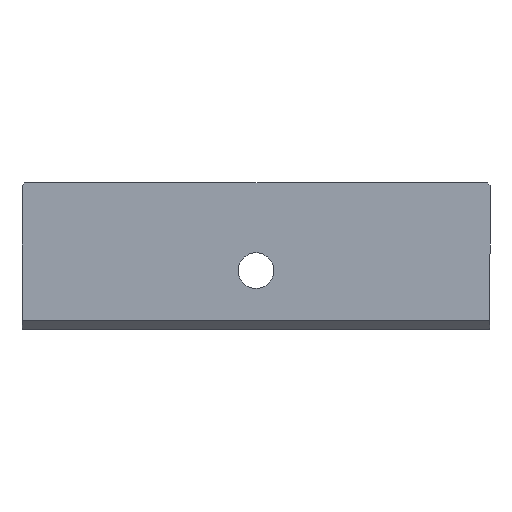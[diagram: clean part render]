
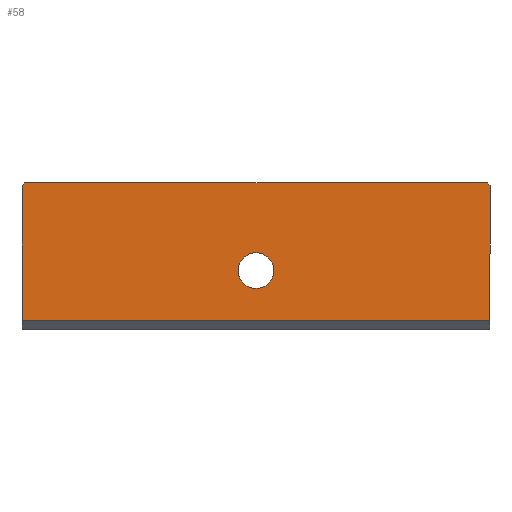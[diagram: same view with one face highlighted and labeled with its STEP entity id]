
A CAD part, top view. The second image highlights one B-rep face of the part: STEP entity #58.
In plain terms, the highlighted planar face has unit normal (0, 0, 1).
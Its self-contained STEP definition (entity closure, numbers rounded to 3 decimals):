
#8 = CARTESIAN_POINT ( 'NONE',  ( 0., -50., 0. ) ) ;
#19 = CARTESIAN_POINT ( 'NONE',  ( -160., -47., 0. ) ) ;
#53 = ORIENTED_EDGE ( 'NONE', *, *, #825, .T. ) ;
#55 = EDGE_CURVE ( 'NONE', #162, #839, #238, .T. ) ;
#58 = ADVANCED_FACE ( 'NONE', ( #269, #931 ), #510, .T. ) ;
#59 = VECTOR ( 'NONE', #854, 1000. ) ;
#67 = CARTESIAN_POINT ( 'NONE',  ( -80., -36.1, 0. ) ) ;
#89 = CIRCLE ( 'NONE', #501, 6.1 ) ;
#93 = ORIENTED_EDGE ( 'NONE', *, *, #107, .T. ) ;
#100 = CIRCLE ( 'NONE', #838, 6.1 ) ;
#107 = EDGE_CURVE ( 'NONE', #505, #629, #89, .T. ) ;
#112 = LINE ( 'NONE', #864, #378 ) ;
#116 = VERTEX_POINT ( 'NONE', #421 ) ;
#119 = VECTOR ( 'NONE', #430, 1000. ) ;
#144 = DIRECTION ( 'NONE',  ( 0., 0., -1. ) ) ;
#159 = CARTESIAN_POINT ( 'NONE',  ( 0., -1., 0. ) ) ;
#162 = VERTEX_POINT ( 'NONE', #159 ) ;
#176 = EDGE_CURVE ( 'NONE', #659, #839, #616, .T. ) ;
#202 = DIRECTION ( 'NONE',  ( 0., 1., 0. ) ) ;
#207 = DIRECTION ( 'NONE',  ( -0.707, 0.707, 0. ) ) ;
#218 = DIRECTION ( 'NONE',  ( 0., 0., 1. ) ) ;
#232 = CARTESIAN_POINT ( 'NONE',  ( -160., -1., 0. ) ) ;
#238 = LINE ( 'NONE', #8, #459 ) ;
#264 = ORIENTED_EDGE ( 'NONE', *, *, #176, .T. ) ;
#269 = FACE_BOUND ( 'NONE', #333, .T. ) ;
#281 = CARTESIAN_POINT ( 'NONE',  ( -160., -50., 0. ) ) ;
#300 = DIRECTION ( 'NONE',  ( 1., 0., 0. ) ) ;
#301 = LINE ( 'NONE', #355, #119 ) ;
#332 = CARTESIAN_POINT ( 'NONE',  ( -160., -50., 0. ) ) ;
#333 = EDGE_LOOP ( 'NONE', ( #93, #695 ) ) ;
#335 = EDGE_LOOP ( 'NONE', ( #356, #53, #473, #264, #923, #562 ) ) ;
#346 = CARTESIAN_POINT ( 'NONE',  ( -160., -47., 0. ) ) ;
#348 = DIRECTION ( 'NONE',  ( 0., 1., 0. ) ) ;
#352 = DIRECTION ( 'NONE',  ( 1., 0., 0. ) ) ;
#355 = CARTESIAN_POINT ( 'NONE',  ( -184.5, -25.5, 0. ) ) ;
#356 = ORIENTED_EDGE ( 'NONE', *, *, #613, .F. ) ;
#360 = CARTESIAN_POINT ( 'NONE',  ( -80., -30., 0. ) ) ;
#361 = CARTESIAN_POINT ( 'NONE',  ( -1., 0., 0. ) ) ;
#378 = VECTOR ( 'NONE', #207, 1000. ) ;
#390 = AXIS2_PLACEMENT_3D ( 'NONE', #281, #218, #352 ) ;
#418 = CARTESIAN_POINT ( 'NONE',  ( -80., -30., 0. ) ) ;
#421 = CARTESIAN_POINT ( 'NONE',  ( -159., 0., 0. ) ) ;
#430 = DIRECTION ( 'NONE',  ( -0.707, -0.707, 0. ) ) ;
#459 = VECTOR ( 'NONE', #660, 1000. ) ;
#473 = ORIENTED_EDGE ( 'NONE', *, *, #492, .T. ) ;
#488 = CARTESIAN_POINT ( 'NONE',  ( -160., 0., 0. ) ) ;
#492 = EDGE_CURVE ( 'NONE', #871, #659, #881, .T. ) ;
#497 = DIRECTION ( 'NONE',  ( 0., 0., -1. ) ) ;
#501 = AXIS2_PLACEMENT_3D ( 'NONE', #360, #144, #348 ) ;
#505 = VERTEX_POINT ( 'NONE', #916 ) ;
#510 = PLANE ( 'NONE',  #390 ) ;
#562 = ORIENTED_EDGE ( 'NONE', *, *, #599, .T. ) ;
#580 = EDGE_CURVE ( 'NONE', #629, #505, #100, .T. ) ;
#585 = CARTESIAN_POINT ( 'NONE',  ( 0., -47., 0. ) ) ;
#599 = EDGE_CURVE ( 'NONE', #162, #793, #112, .T. ) ;
#613 = EDGE_CURVE ( 'NONE', #116, #793, #823, .T. ) ;
#616 = LINE ( 'NONE', #19, #868 ) ;
#629 = VERTEX_POINT ( 'NONE', #67 ) ;
#659 = VERTEX_POINT ( 'NONE', #346 ) ;
#660 = DIRECTION ( 'NONE',  ( 0., -1., 0. ) ) ;
#695 = ORIENTED_EDGE ( 'NONE', *, *, #580, .T. ) ;
#793 = VERTEX_POINT ( 'NONE', #361 ) ;
#823 = LINE ( 'NONE', #488, #893 ) ;
#825 = EDGE_CURVE ( 'NONE', #116, #871, #301, .T. ) ;
#838 = AXIS2_PLACEMENT_3D ( 'NONE', #418, #497, #202 ) ;
#839 = VERTEX_POINT ( 'NONE', #585 ) ;
#854 = DIRECTION ( 'NONE',  ( 0., -1., 0. ) ) ;
#858 = DIRECTION ( 'NONE',  ( 1., 0., 0. ) ) ;
#864 = CARTESIAN_POINT ( 'NONE',  ( -55.5, 54.5, 0. ) ) ;
#868 = VECTOR ( 'NONE', #300, 1000. ) ;
#871 = VERTEX_POINT ( 'NONE', #232 ) ;
#881 = LINE ( 'NONE', #332, #59 ) ;
#893 = VECTOR ( 'NONE', #858, 1000. ) ;
#916 = CARTESIAN_POINT ( 'NONE',  ( -80., -23.9, 0. ) ) ;
#923 = ORIENTED_EDGE ( 'NONE', *, *, #55, .F. ) ;
#931 = FACE_OUTER_BOUND ( 'NONE', #335, .T. ) ;
